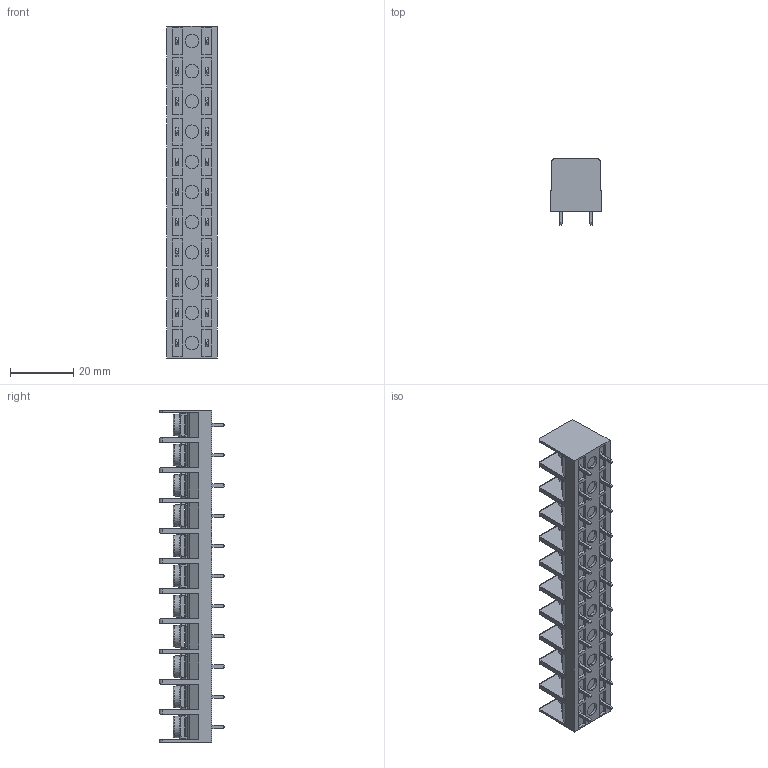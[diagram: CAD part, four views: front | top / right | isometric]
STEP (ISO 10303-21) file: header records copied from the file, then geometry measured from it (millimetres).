
FILE_DESCRIPTION (( 'STEP AP214' ), '1' );
FILE_NAME ('982-D-11.STEP', '2007-12-12T19:57:05', ( 'weco' ), ( 'weco' ), 'SwSTEP 2.0', 'SolidWorks 2007', '' );
FILE_SCHEMA (( 'AUTOMOTIVE_DESIGN' ));
Length unit declared in the file: millimetre
Products named in the file (1): 982-D-11
Bounding box: 16 x 20.7 x 104.7 mm (x, y, z)
Volume: 15836.6 mm3; surface area: 12842.6 mm2
Topology: 1 solids, 1 shells, 1141 faces, 3087 edges, 2014 vertices
Faces by surface type: plane 798, cylinder 222, bspline 99, cone 22
Entity records: 39918 total; most frequent: CARTESIAN_POINT 12234, ORIENTED_EDGE 6174, DIRECTION 5070, EDGE_CURVE 3087, VECTOR 2126, LINE 2126, VERTEX_POINT 2014, AXIS2_PLACEMENT_3D 1472
